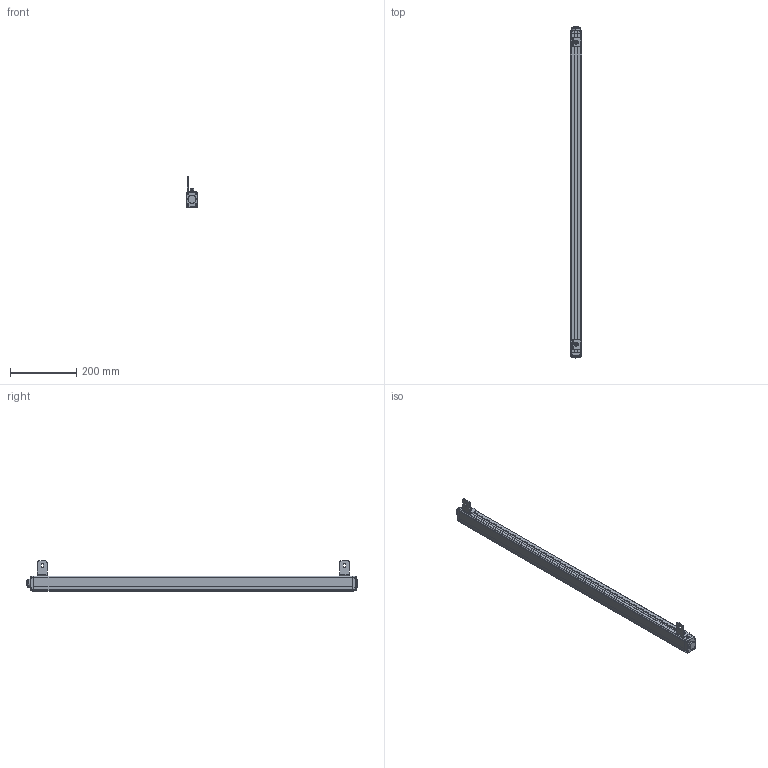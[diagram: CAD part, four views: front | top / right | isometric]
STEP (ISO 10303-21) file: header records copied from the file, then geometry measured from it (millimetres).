
FILE_DESCRIPTION((''),'2;1');
FILE_NAME('ESCL-00_ASM','2021-07-16T15:09:08',('18720616900'),(''),'CREO PARAMETRIC BY PTC INC, 2019010','CREO PARAMETRIC BY PTC INC, 2019010','');
FILE_SCHEMA(('CONFIG_CONTROL_DESIGN'));
Products named in the file (12): ESCL-00; ESCL-3-SOLID1000; ESCL-4-SOLID1000; HKCT1_-4-SOLID1; L10001; M6-8--0001; M6-1--00; M6-1-00; 00; M6-80001_ASM; L1--0001_ASM; ESCL-00_ASM
Assembly tree (12 placements, depth 4):
  ESCL-00_ASM
    ESCL-00
    ESCL-3-SOLID1000
    ESCL-4-SOLID1000
    HKCT1_-4-SOLID1
    L1--0001_ASM  x2
      L10001
      M6-80001_ASM
        M6-8--0001
        M6-1--00
        M6-1-00
        00
Bounding box: 36.1 x 1005.1 x 91.11 mm (x, y, z)
Volume: 1452484.5 mm3; surface area: 215792 mm2
Topology: 14 solids, 14 shells, 629 faces, 1657 edges, 1078 vertices
Faces by surface type: plane 228, cylinder 210, cone 78, bspline 66, torus 47
Entity records: 76313 total; most frequent: CARTESIAN_POINT 64015, ORIENTED_EDGE 2688, DIRECTION 2299, EDGE_CURVE 1344, VERTEX_POINT 880, AXIS2_PLACEMENT_3D 824, VECTOR 651, LINE 651
